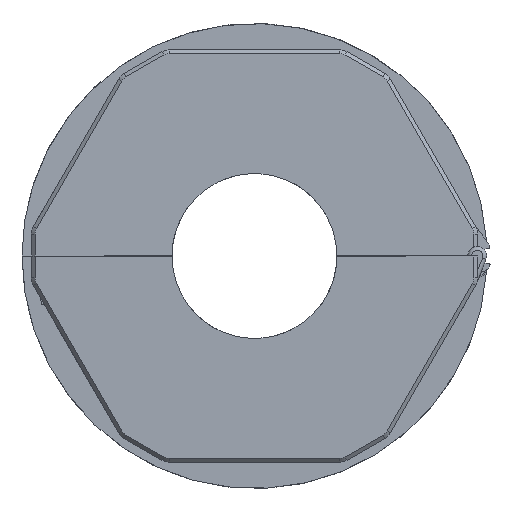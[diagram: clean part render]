
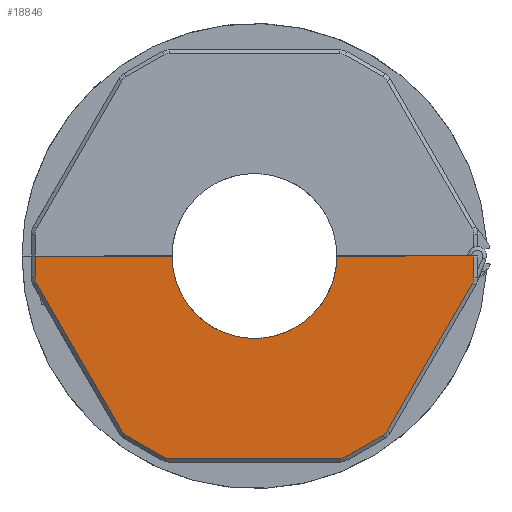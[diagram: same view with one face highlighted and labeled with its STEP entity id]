
A CAD part, left-side view. The second image highlights one B-rep face of the part: STEP entity #18846.
In plain terms, the highlighted planar face has unit normal (-1, 0, -0.009) as drawn and (-1, 0, 0.009) by its records, which use the part's own axes.
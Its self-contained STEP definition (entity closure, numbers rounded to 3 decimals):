
#558=CIRCLE('',#20320,1.5);
#560=CIRCLE('',#20323,1.5);
#562=CIRCLE('',#20326,1.5);
#564=CIRCLE('',#20329,1.5);
#566=CIRCLE('',#20332,1.5);
#568=CIRCLE('',#20335,1.5);
#1156=PLANE('',#20336);
#2126=FACE_OUTER_BOUND('',#3235,.T.);
#3235=EDGE_LOOP('',(#16772,#16773,#16774,#16775,#16776,#16777,#16778,#16779,
#16780,#16781,#16782,#16783,#16784,#16785,#16786,#16787));
#4729=LINE('',#31411,#6576);
#5259=LINE('',#34258,#7106);
#5260=LINE('',#34261,#7107);
#5266=LINE('',#34291,#7113);
#5270=LINE('',#34318,#7117);
#5274=LINE('',#34345,#7121);
#5278=LINE('',#34372,#7125);
#5282=LINE('',#34399,#7129);
#5283=LINE('',#34421,#7130);
#6576=VECTOR('',#23612,10.);
#7106=VECTOR('',#24650,10.);
#7107=VECTOR('',#24653,10.);
#7113=VECTOR('',#24665,10.);
#7117=VECTOR('',#24675,10.);
#7121=VECTOR('',#24685,10.);
#7125=VECTOR('',#24695,10.);
#7129=VECTOR('',#24705,10.);
#7130=VECTOR('',#24714,10.);
#7583=ELLIPSE('',#20337,11.,11.);
#8703=VERTEX_POINT('',#31408);
#8704=VERTEX_POINT('',#31410);
#9180=VERTEX_POINT('',#34251);
#9183=VERTEX_POINT('',#34256);
#9184=VERTEX_POINT('',#34260);
#9186=VERTEX_POINT('',#34281);
#9188=VERTEX_POINT('',#34287);
#9190=VERTEX_POINT('',#34308);
#9192=VERTEX_POINT('',#34314);
#9194=VERTEX_POINT('',#34335);
#9196=VERTEX_POINT('',#34341);
#9198=VERTEX_POINT('',#34362);
#9200=VERTEX_POINT('',#34368);
#9202=VERTEX_POINT('',#34389);
#9204=VERTEX_POINT('',#34395);
#9206=VERTEX_POINT('',#34419);
#11059=EDGE_CURVE('',#8704,#8703,#4729,.T.);
#11761=EDGE_CURVE('',#9183,#9180,#5259,.T.);
#11762=EDGE_CURVE('',#8704,#9184,#5260,.T.);
#11767=EDGE_CURVE('',#9184,#9186,#558,.T.);
#11770=EDGE_CURVE('',#9186,#9188,#5266,.T.);
#11773=EDGE_CURVE('',#9188,#9190,#560,.T.);
#11776=EDGE_CURVE('',#9190,#9192,#5270,.T.);
#11779=EDGE_CURVE('',#9192,#9194,#562,.T.);
#11782=EDGE_CURVE('',#9194,#9196,#5274,.T.);
#11785=EDGE_CURVE('',#9196,#9198,#564,.T.);
#11788=EDGE_CURVE('',#9198,#9200,#5278,.T.);
#11791=EDGE_CURVE('',#9200,#9202,#566,.T.);
#11794=EDGE_CURVE('',#9202,#9204,#5282,.T.);
#11796=EDGE_CURVE('',#9204,#9183,#568,.T.);
#11797=EDGE_CURVE('',#8703,#9206,#7583,.F.);
#11798=EDGE_CURVE('',#9206,#9180,#5283,.T.);
#16772=ORIENTED_EDGE('',*,*,#11761,.F.);
#16773=ORIENTED_EDGE('',*,*,#11796,.F.);
#16774=ORIENTED_EDGE('',*,*,#11794,.F.);
#16775=ORIENTED_EDGE('',*,*,#11791,.F.);
#16776=ORIENTED_EDGE('',*,*,#11788,.F.);
#16777=ORIENTED_EDGE('',*,*,#11785,.F.);
#16778=ORIENTED_EDGE('',*,*,#11782,.F.);
#16779=ORIENTED_EDGE('',*,*,#11779,.F.);
#16780=ORIENTED_EDGE('',*,*,#11776,.F.);
#16781=ORIENTED_EDGE('',*,*,#11773,.F.);
#16782=ORIENTED_EDGE('',*,*,#11770,.F.);
#16783=ORIENTED_EDGE('',*,*,#11767,.F.);
#16784=ORIENTED_EDGE('',*,*,#11762,.F.);
#16785=ORIENTED_EDGE('',*,*,#11059,.T.);
#16786=ORIENTED_EDGE('',*,*,#11797,.T.);
#16787=ORIENTED_EDGE('',*,*,#11798,.T.);
#18846=ADVANCED_FACE('',(#2126),#1156,.T.);
#20320=AXIS2_PLACEMENT_3D('',#34285,#24659,#24660);
#20323=AXIS2_PLACEMENT_3D('',#34312,#24669,#24670);
#20326=AXIS2_PLACEMENT_3D('',#34339,#24679,#24680);
#20329=AXIS2_PLACEMENT_3D('',#34366,#24689,#24690);
#20332=AXIS2_PLACEMENT_3D('',#34393,#24699,#24700);
#20335=AXIS2_PLACEMENT_3D('',#34417,#24708,#24709);
#20336=AXIS2_PLACEMENT_3D('',#34418,#24710,#24711);
#20337=AXIS2_PLACEMENT_3D('',#34420,#24712,#24713);
#23612=DIRECTION('',(0.,-1.,0.));
#24650=DIRECTION('',(-0.009,0.017,-1.));
#24653=DIRECTION('',(0.009,0.017,1.));
#24659=DIRECTION('center_axis',(1.,0.,
-0.009));
#24660=DIRECTION('ref_axis',(0.004,0.866,0.5));
#24665=DIRECTION('',(0.008,-0.5,0.866));
#24669=DIRECTION('center_axis',(1.,0.,
-0.009));
#24670=DIRECTION('ref_axis',(0.008,0.5,0.866));
#24675=DIRECTION('',(0.004,-0.866,0.5));
#24679=DIRECTION('center_axis',(1.,0.,
-0.009));
#24680=DIRECTION('ref_axis',(0.009,0.,1.));
#24685=DIRECTION('',(0.,-1.,0.));
#24689=DIRECTION('center_axis',(1.,0.,
-0.009));
#24690=DIRECTION('ref_axis',(0.008,-0.5,0.866));
#24695=DIRECTION('',(-0.004,-0.866,-0.5));
#24699=DIRECTION('center_axis',(1.,0.,
-0.009));
#24700=DIRECTION('ref_axis',(0.004,-0.866,0.5));
#24705=DIRECTION('',(-0.008,-0.5,-0.866));
#24708=DIRECTION('center_axis',(1.,0.,
-0.009));
#24709=DIRECTION('ref_axis',(0.,-1.,0.));
#24710=DIRECTION('center_axis',(-1.,0.,0.009));
#24711=DIRECTION('ref_axis',(0.009,0.,1.));
#24712=DIRECTION('center_axis',(-1.,0.,0.009));
#24713=DIRECTION('ref_axis',(-0.009,0.,
-1.));
#24714=DIRECTION('',(0.,-1.,0.));
#31408=CARTESIAN_POINT('',(-20.,11.,0.));
#31410=CARTESIAN_POINT('',(-20.,29.203,0.));
#31411=CARTESIAN_POINT('',(-20.,-5.125,0.));
#34251=CARTESIAN_POINT('',(-20.,-29.203,0.));
#34256=CARTESIAN_POINT('',(-19.974,-29.254,2.933));
#34258=CARTESIAN_POINT('',(-19.991,-29.22,0.998));
#34260=CARTESIAN_POINT('',(-19.974,29.254,2.933));
#34261=CARTESIAN_POINT('',(-20.,29.202,-0.034));
#34281=CARTESIAN_POINT('',(-19.968,29.053,3.683));
#34285=CARTESIAN_POINT('Origin',(-19.974,27.754,2.933));
#34287=CARTESIAN_POINT('',(-19.796,17.712,23.326));
#34291=CARTESIAN_POINT('',(-19.968,29.053,3.683));
#34308=CARTESIAN_POINT('',(-19.792,17.163,23.875));
#34312=CARTESIAN_POINT('Origin',(-19.803,16.413,22.576));
#34314=CARTESIAN_POINT('',(-19.766,12.091,26.803));
#34318=CARTESIAN_POINT('',(-19.792,17.163,23.875));
#34335=CARTESIAN_POINT('',(-19.764,11.341,27.004));
#34339=CARTESIAN_POINT('Origin',(-19.777,11.341,25.504));
#34341=CARTESIAN_POINT('',(-19.764,-11.341,27.004));
#34345=CARTESIAN_POINT('',(-19.764,11.341,27.004));
#34362=CARTESIAN_POINT('',(-19.766,-12.091,26.803));
#34366=CARTESIAN_POINT('Origin',(-19.777,-11.341,25.504));
#34368=CARTESIAN_POINT('',(-19.792,-17.163,23.875));
#34372=CARTESIAN_POINT('',(-19.766,-12.091,26.803));
#34389=CARTESIAN_POINT('',(-19.796,-17.712,23.326));
#34393=CARTESIAN_POINT('Origin',(-19.803,-16.413,22.576));
#34395=CARTESIAN_POINT('',(-19.968,-29.053,3.683));
#34399=CARTESIAN_POINT('',(-19.796,-17.712,23.326));
#34417=CARTESIAN_POINT('Origin',(-19.974,-27.754,2.933));
#34418=CARTESIAN_POINT('Origin',(-20.,24.75,0.));
#34419=CARTESIAN_POINT('',(-20.,-11.,0.));
#34420=CARTESIAN_POINT('Origin',(-20.,0.,0.));
#34421=CARTESIAN_POINT('',(-20.,-5.125,0.));
